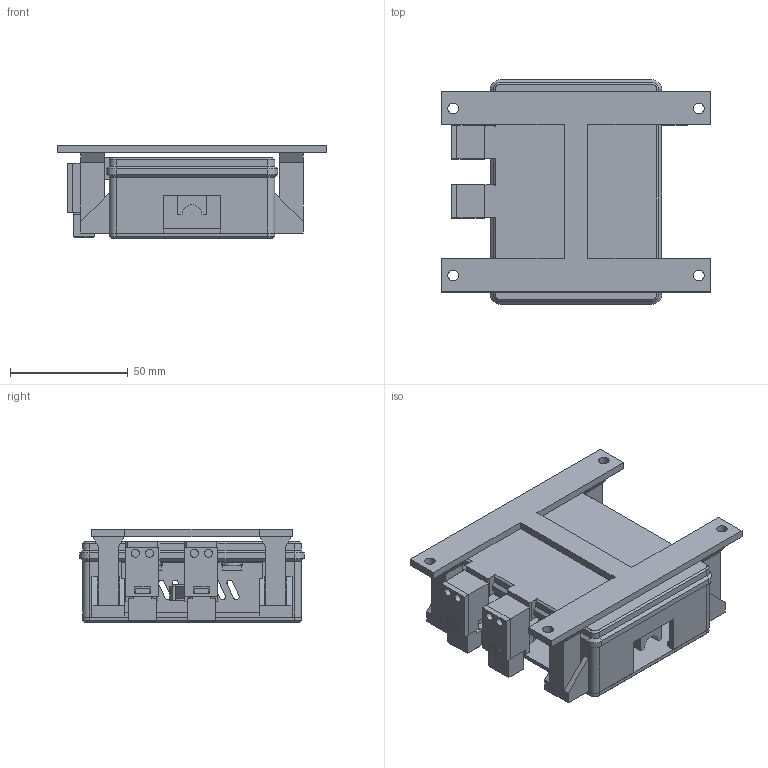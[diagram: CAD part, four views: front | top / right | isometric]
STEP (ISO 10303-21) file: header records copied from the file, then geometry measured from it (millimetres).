
FILE_DESCRIPTION(('Open CASCADE Model'),'2;1');
FILE_NAME('Open CASCADE Shape Model','2026-10-19T19:28:34',('Author'),( 'Open CASCADE'),'Open CASCADE STEP processor 7.9','build123d', 'Unknown');
FILE_SCHEMA(('AUTOMOTIVE_DESIGN { 1 0 10303 214 1 1 1 1 }'));
Length unit declared in the file: millimetre
Products named in the file (16): COMPOUND
Assembly tree (15 placements, depth 2):
  COMPOUND
    COMPOUND
    COMPOUND
    COMPOUND
    COMPOUND
    COMPOUND
    COMPOUND
    COMPOUND
    COMPOUND
    COMPOUND
    COMPOUND
    COMPOUND
    COMPOUND
    COMPOUND
    COMPOUND
    COMPOUND
Bounding box: 114.2 x 95.2 x 39.6 mm (x, y, z)
Volume: 94049.9 mm3; surface area: 74061 mm2
Topology: 15 solids, 15 shells, 661 faces, 1698 edges, 1107 vertices
Faces by surface type: plane 522, cylinder 123, cone 16
Full cylindrical faces by diameter (mm): 3.4 x22, 4 x18, 4.5 x4
Entity records: 41672 total; most frequent: CARTESIAN_POINT 8452, DIRECTION 5650, LINE 3636, VECTOR 3636, ORIENTED_EDGE 3396, PCURVE 3396, DEFINITIONAL_REPRESENTATION 3396, EDGE_CURVE 1698
